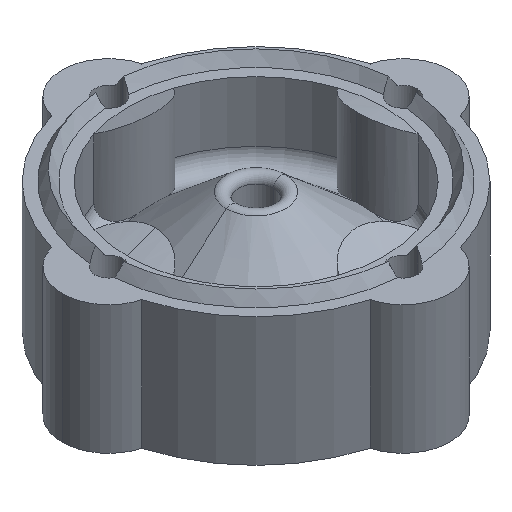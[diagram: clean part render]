
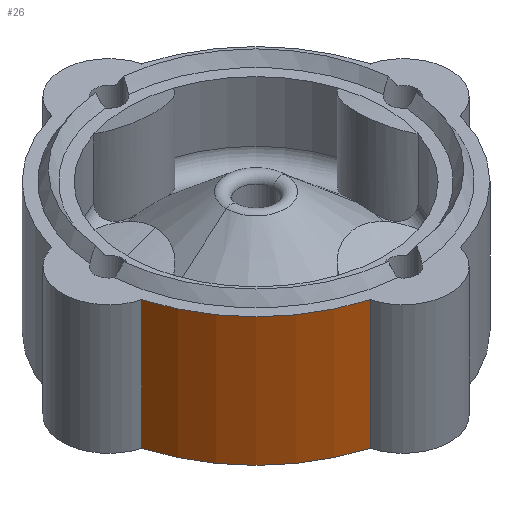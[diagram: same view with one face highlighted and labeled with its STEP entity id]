
A CAD part, isometric view. The second image highlights one B-rep face of the part: STEP entity #26.
In plain terms, the highlighted cylindrical face has radius 45 mm (diameter 90 mm), a partial arc.
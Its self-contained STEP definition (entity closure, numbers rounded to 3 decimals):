
#26 = ADVANCED_FACE ( 'NONE', ( #1581 ), #2699, .T. ) ;
#157 = AXIS2_PLACEMENT_3D ( 'NONE', #642, #2468, #709 ) ;
#283 = ORIENTED_EDGE ( 'NONE', *, *, #1040, .T. ) ;
#295 = DIRECTION ( 'NONE',  ( 0., 0., 1. ) ) ;
#312 = CIRCLE ( 'NONE', #932, 45. ) ;
#354 = CARTESIAN_POINT ( 'NONE',  ( -12.265, -43.296, -35.383 ) ) ;
#373 = VERTEX_POINT ( 'NONE', #2781 ) ;
#534 = CARTESIAN_POINT ( 'NONE',  ( 0., 0., -35.383 ) ) ;
#593 = ORIENTED_EDGE ( 'NONE', *, *, #2344, .F. ) ;
#642 = CARTESIAN_POINT ( 'NONE',  ( 0., 0., 0. ) ) ;
#709 = DIRECTION ( 'NONE',  ( 1., 0., 0. ) ) ;
#728 = CARTESIAN_POINT ( 'NONE',  ( -43.296, -12.265, -17.883 ) ) ;
#926 = VECTOR ( 'NONE', #295, 1000. ) ;
#932 = AXIS2_PLACEMENT_3D ( 'NONE', #534, #2363, #1885 ) ;
#1027 = ORIENTED_EDGE ( 'NONE', *, *, #2573, .F. ) ;
#1040 = EDGE_CURVE ( 'NONE', #2293, #2308, #312, .T. ) ;
#1072 = CARTESIAN_POINT ( 'NONE',  ( 0., 0., -0.383 ) ) ;
#1078 = LINE ( 'NONE', #2721, #2757 ) ;
#1143 = CARTESIAN_POINT ( 'NONE',  ( -43.296, -12.265, -0.383 ) ) ;
#1251 = EDGE_LOOP ( 'NONE', ( #593, #2254, #1027, #283 ) ) ;
#1462 = VERTEX_POINT ( 'NONE', #1143 ) ;
#1510 = DIRECTION ( 'NONE',  ( 0., 0., -1. ) ) ;
#1581 = FACE_OUTER_BOUND ( 'NONE', #1251, .T. ) ;
#1642 = AXIS2_PLACEMENT_3D ( 'NONE', #1072, #1984, #1731 ) ;
#1731 = DIRECTION ( 'NONE',  ( 1., 0., 0. ) ) ;
#1885 = DIRECTION ( 'NONE',  ( 1., 0., 0. ) ) ;
#1984 = DIRECTION ( 'NONE',  ( 0., 0., 1. ) ) ;
#2254 = ORIENTED_EDGE ( 'NONE', *, *, #2731, .F. ) ;
#2293 = VERTEX_POINT ( 'NONE', #2857 ) ;
#2308 = VERTEX_POINT ( 'NONE', #354 ) ;
#2344 = EDGE_CURVE ( 'NONE', #373, #2308, #1078, .T. ) ;
#2363 = DIRECTION ( 'NONE',  ( 0., 0., 1. ) ) ;
#2468 = DIRECTION ( 'NONE',  ( 0., 0., 1. ) ) ;
#2526 = LINE ( 'NONE', #728, #926 ) ;
#2573 = EDGE_CURVE ( 'NONE', #2293, #1462, #2526, .T. ) ;
#2602 = CIRCLE ( 'NONE', #1642, 45. ) ;
#2699 = CYLINDRICAL_SURFACE ( 'NONE', #157, 45. ) ;
#2721 = CARTESIAN_POINT ( 'NONE',  ( -12.265, -43.296, -17.883 ) ) ;
#2731 = EDGE_CURVE ( 'NONE', #1462, #373, #2602, .T. ) ;
#2757 = VECTOR ( 'NONE', #1510, 1000. ) ;
#2781 = CARTESIAN_POINT ( 'NONE',  ( -12.265, -43.296, -0.383 ) ) ;
#2857 = CARTESIAN_POINT ( 'NONE',  ( -43.296, -12.265, -35.383 ) ) ;
